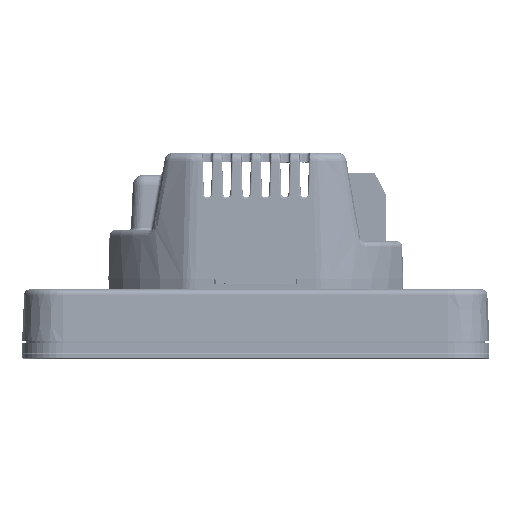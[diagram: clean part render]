
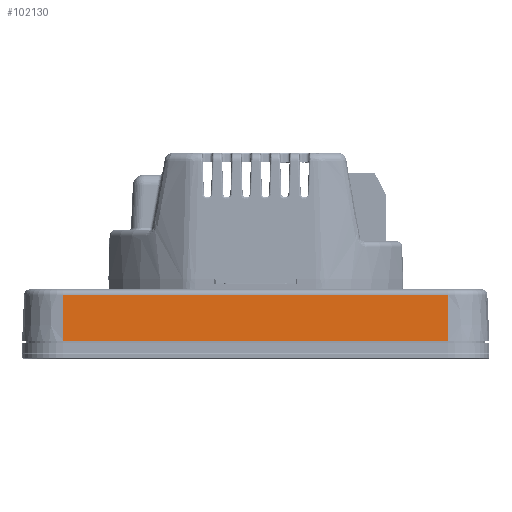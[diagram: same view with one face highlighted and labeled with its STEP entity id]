
A CAD part, left-side view. The second image highlights one B-rep face of the part: STEP entity #102130.
In plain terms, the highlighted planar face has unit normal (-0.999, 0, 0.044) as drawn and (0.999, 0, 0.044) by its records, which use the part's own axes.
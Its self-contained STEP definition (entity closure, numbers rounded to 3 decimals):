
#13592=FACE_OUTER_BOUND('',#19665,.T.);
#19665=EDGE_LOOP('',(#80689,#80690,#80691,#80692));
#28459=LINE('',#175749,#37589);
#28494=LINE('',#175875,#37624);
#28495=LINE('',#175879,#37625);
#28496=LINE('',#175880,#37626);
#37589=VECTOR('',#124926,69.5);
#37624=VECTOR('',#125037,8.347);
#37625=VECTOR('',#125042,8.347);
#37626=VECTOR('',#125043,69.5);
#47066=VERTEX_POINT('',#175742);
#47069=VERTEX_POINT('',#175747);
#47122=VERTEX_POINT('',#175874);
#47123=VERTEX_POINT('',#175878);
#59815=EDGE_CURVE('',#47069,#47066,#28459,.T.);
#59878=EDGE_CURVE('',#47066,#47122,#28494,.T.);
#59880=EDGE_CURVE('',#47123,#47069,#28495,.T.);
#59881=EDGE_CURVE('',#47122,#47123,#28496,.T.);
#80689=ORIENTED_EDGE('',*,*,#59815,.F.);
#80690=ORIENTED_EDGE('',*,*,#59880,.F.);
#80691=ORIENTED_EDGE('',*,*,#59881,.F.);
#80692=ORIENTED_EDGE('',*,*,#59878,.F.);
#98489=PLANE('',#109073);
#102130=ADVANCED_FACE('',(#13592),#98489,.T.);
#109073=AXIS2_PLACEMENT_3D('',#175877,#125040,#125041);
#124926=DIRECTION('',(0.,-1.,0.));
#125037=DIRECTION('',(-0.044,0.,0.999));
#125040=DIRECTION('center_axis',(0.999,0.,0.044));
#125041=DIRECTION('ref_axis',(0.,1.,0.));
#125042=DIRECTION('',(0.044,0.,-0.999));
#125043=DIRECTION('',(0.,1.,0.));
#175742=CARTESIAN_POINT('',(41.982,-34.75,-6.796));
#175747=CARTESIAN_POINT('',(41.982,34.75,-6.796));
#175749=CARTESIAN_POINT('',(41.982,34.75,-6.796));
#175874=CARTESIAN_POINT('',(41.618,-34.75,1.544));
#175875=CARTESIAN_POINT('',(41.982,-34.75,-6.796));
#175877=CARTESIAN_POINT('Origin',(41.621,-42.25,1.492));
#175878=CARTESIAN_POINT('',(41.618,34.75,1.544));
#175879=CARTESIAN_POINT('',(41.618,34.75,1.544));
#175880=CARTESIAN_POINT('',(41.618,-34.75,1.544));
